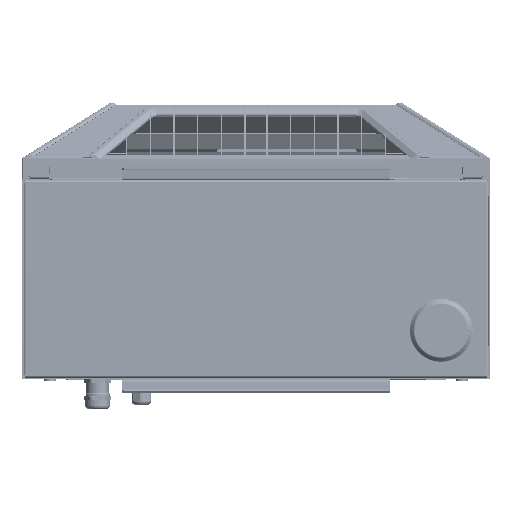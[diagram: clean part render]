
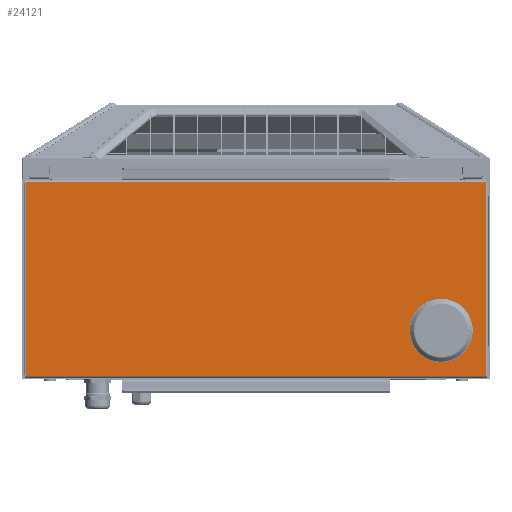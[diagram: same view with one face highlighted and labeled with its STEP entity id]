
A CAD part, front view. The second image highlights one B-rep face of the part: STEP entity #24121.
In plain terms, the highlighted planar face has unit normal (0, -1, 0).
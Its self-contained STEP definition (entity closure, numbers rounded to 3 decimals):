
#22267=DIRECTION('',(1.,0.,0.));
#22268=VECTOR('',#22267,448.);
#22269=CARTESIAN_POINT('',(-224.,0.,3.5));
#22270=LINE('',#22269,#22268);
#22291=CARTESIAN_POINT('',(180.,0.,47.5));
#22292=DIRECTION('',(0.,-1.,0.));
#22293=DIRECTION('',(-1.,0.,0.));
#22294=AXIS2_PLACEMENT_3D('',#22291,#22292,#22293);
#22296=CARTESIAN_POINT('',(180.,0.,47.5));
#22297=DIRECTION('',(0.,-1.,0.));
#22298=DIRECTION('',(-1.,0.,-0.006));
#22299=AXIS2_PLACEMENT_3D('',#22296,#22297,#22298);
#22301=CARTESIAN_POINT('',(180.,0.,47.5));
#22302=DIRECTION('',(0.,-1.,0.));
#22303=DIRECTION('',(1.,0.,0.));
#22304=AXIS2_PLACEMENT_3D('',#22301,#22302,#22303);
#22306=CARTESIAN_POINT('',(180.,0.,47.5));
#22307=DIRECTION('',(0.,-1.,0.));
#22308=DIRECTION('',(1.,0.,0.006));
#22309=AXIS2_PLACEMENT_3D('',#22306,#22307,#22308);
#22323=DIRECTION('',(-1.,0.,0.));
#22324=VECTOR('',#22323,448.);
#22325=CARTESIAN_POINT('',(224.,0.,191.5));
#22326=LINE('',#22325,#22324);
#22379=DIRECTION('',(0.,0.,1.));
#22380=VECTOR('',#22379,188.);
#22381=CARTESIAN_POINT('',(224.,0.,3.5));
#22382=LINE('',#22381,#22380);
#22723=DIRECTION('',(0.,0.,-1.));
#22724=VECTOR('',#22723,188.);
#22725=CARTESIAN_POINT('',(-224.,0.,191.5));
#22726=LINE('',#22725,#22724);
#23541=CARTESIAN_POINT('',(-224.,0.,3.5));
#23542=CARTESIAN_POINT('',(224.,0.,3.5));
#23543=VERTEX_POINT('',#23541);
#23544=VERTEX_POINT('',#23542);
#23545=CARTESIAN_POINT('',(224.,0.,191.5));
#23546=CARTESIAN_POINT('',(-224.,0.,191.5));
#23547=VERTEX_POINT('',#23545);
#23548=VERTEX_POINT('',#23546);
#23549=CARTESIAN_POINT('',(149.172,0.,47.324));
#23550=CARTESIAN_POINT('',(210.828,0.,47.5));
#23551=VERTEX_POINT('',#23549);
#23552=VERTEX_POINT('',#23550);
#23553=CARTESIAN_POINT('',(149.172,0.,47.5));
#23554=VERTEX_POINT('',#23553);
#23555=CARTESIAN_POINT('',(210.828,0.,47.676));
#23556=VERTEX_POINT('',#23555);
#24097=CARTESIAN_POINT('',(0.,0.,0.));
#24098=DIRECTION('',(0.,-1.,0.));
#24099=DIRECTION('',(0.,0.,1.));
#24100=AXIS2_PLACEMENT_3D('',#24097,#24098,#24099);
#24101=PLANE('',#24100);
#24103=ORIENTED_EDGE('',*,*,#24102,.F.);
#24105=ORIENTED_EDGE('',*,*,#24104,.F.);
#24106=ORIENTED_EDGE('',*,*,#24087,.F.);
#24108=ORIENTED_EDGE('',*,*,#24107,.F.);
#24109=EDGE_LOOP('',(#24103,#24105,#24106,#24108));
#24110=FACE_OUTER_BOUND('',#24109,.F.);
#24112=ORIENTED_EDGE('',*,*,#24111,.T.);
#24114=ORIENTED_EDGE('',*,*,#24113,.T.);
#24116=ORIENTED_EDGE('',*,*,#24115,.T.);
#24118=ORIENTED_EDGE('',*,*,#24117,.T.);
#24119=EDGE_LOOP('',(#24112,#24114,#24116,#24118));
#24120=FACE_BOUND('',#24119,.F.);
#24121=ADVANCED_FACE('',(#24110,#24120),#24101,.T.);
#22295=CIRCLE('',#22294,30.828);
#22300=CIRCLE('',#22299,30.828);
#22305=CIRCLE('',#22304,30.828);
#22310=CIRCLE('',#22309,30.828);
#24087=EDGE_CURVE('',#23543,#23544,#22270,.T.);
#24102=EDGE_CURVE('',#23547,#23548,#22326,.T.);
#24104=EDGE_CURVE('',#23544,#23547,#22382,.T.);
#24107=EDGE_CURVE('',#23548,#23543,#22726,.T.);
#24111=EDGE_CURVE('',#23554,#23551,#22295,.T.);
#24113=EDGE_CURVE('',#23551,#23552,#22300,.T.);
#24115=EDGE_CURVE('',#23552,#23556,#22305,.T.);
#24117=EDGE_CURVE('',#23556,#23554,#22310,.T.);
